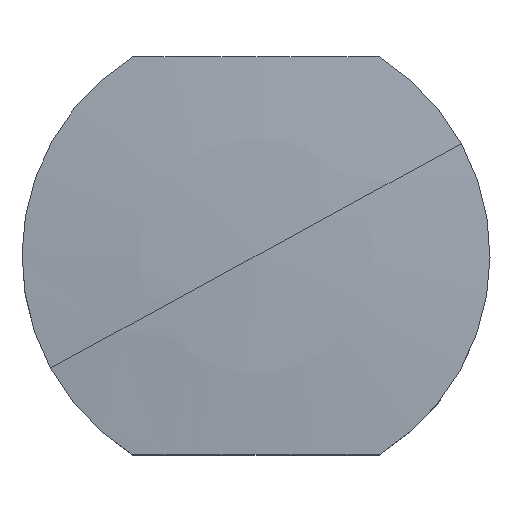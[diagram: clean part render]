
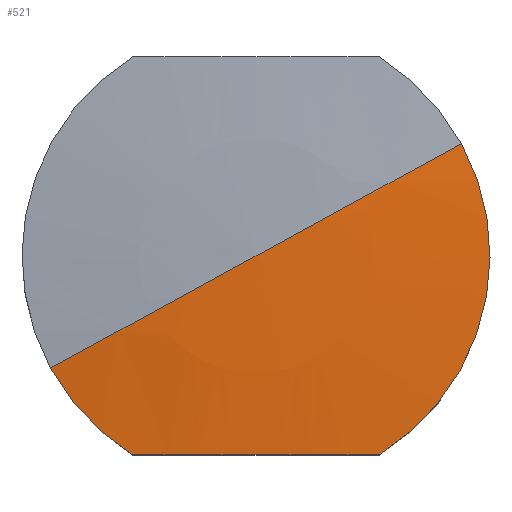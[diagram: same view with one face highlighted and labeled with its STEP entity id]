
A CAD part, top view. The second image highlights one B-rep face of the part: STEP entity #521.
In plain terms, the highlighted spherical face has radius 100 mm.
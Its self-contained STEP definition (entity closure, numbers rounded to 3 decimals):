
#345=CARTESIAN_POINT('Vertex',(-8.776,-4.794,14.999)) ;
#360=CARTESIAN_POINT('Axis2P3D Location',(0.,0.,-84.5)) ;
#365=CARTESIAN_POINT('Axis2P3D Location',(0.,0.,-84.5)) ;
#369=CARTESIAN_POINT('Vertex',(0.,0.,15.5)) ;
#372=CARTESIAN_POINT('Axis2P3D Location',(0.,0.,-84.5)) ;
#376=CARTESIAN_POINT('Vertex',(8.776,4.794,14.999)) ;
#404=CARTESIAN_POINT('Axis2P3D Location',(0.,0.,14.999)) ;
#408=CARTESIAN_POINT('Vertex',(-5.268,-8.5,14.999)) ;
#432=CARTESIAN_POINT('Vertex',(5.268,-8.5,14.999)) ;
#436=CARTESIAN_POINT('Control Point',(-5.268,-8.5,14.999)) ;
#437=CARTESIAN_POINT('Control Point',(-4.769,-8.5,15.025)) ;
#438=CARTESIAN_POINT('Control Point',(-4.303,-8.5,15.047)) ;
#439=CARTESIAN_POINT('Control Point',(-3.861,-8.5,15.065)) ;
#440=CARTESIAN_POINT('Control Point',(-2.903,-8.5,15.099)) ;
#441=CARTESIAN_POINT('Control Point',(-2.023,-8.5,15.119)) ;
#442=CARTESIAN_POINT('Control Point',(-1.548,-8.5,15.128)) ;
#443=CARTESIAN_POINT('Control Point',(-0.43,-8.5,15.141)) ;
#444=CARTESIAN_POINT('Control Point',(0.661,-8.5,15.139)) ;
#445=CARTESIAN_POINT('Control Point',(1.304,-8.5,15.133)) ;
#446=CARTESIAN_POINT('Control Point',(2.409,-8.5,15.113)) ;
#447=CARTESIAN_POINT('Control Point',(3.627,-8.5,15.074)) ;
#448=CARTESIAN_POINT('Control Point',(4.138,-8.5,15.054)) ;
#449=CARTESIAN_POINT('Control Point',(4.681,-8.5,15.03)) ;
#450=CARTESIAN_POINT('Control Point',(5.268,-8.5,14.999)) ;
#459=CARTESIAN_POINT('Axis2P3D Location',(0.,0.,14.999)) ;
#361=DIRECTION('Axis2P3D Direction',(0.,0.,1.)) ;
#362=DIRECTION('Axis2P3D XDirection',(0.878,0.479,0.)) ;
#366=DIRECTION('Axis2P3D Direction',(-0.479,0.878,0.)) ;
#373=DIRECTION('Axis2P3D Direction',(0.479,-0.878,0.)) ;
#405=DIRECTION('Axis2P3D Direction',(0.,0.,1.)) ;
#460=DIRECTION('Axis2P3D Direction',(0.,0.,1.)) ;
#363=AXIS2_PLACEMENT_3D('Sphere Axis2P3D',#360,#361,#362) ;
#367=AXIS2_PLACEMENT_3D('Circle Axis2P3D',#365,#366,$) ;
#374=AXIS2_PLACEMENT_3D('Circle Axis2P3D',#372,#373,$) ;
#406=AXIS2_PLACEMENT_3D('Circle Axis2P3D',#404,#405,$) ;
#461=AXIS2_PLACEMENT_3D('Circle Axis2P3D',#459,#460,$) ;
#515=ORIENTED_EDGE('',*,*,#463,.T.) ;
#516=ORIENTED_EDGE('',*,*,#378,.F.) ;
#517=ORIENTED_EDGE('',*,*,#371,.T.) ;
#518=ORIENTED_EDGE('',*,*,#410,.T.) ;
#519=ORIENTED_EDGE('',*,*,#451,.T.) ;
#521=ADVANCED_FACE('',(#520),#364,.T.) ;
#435=B_SPLINE_CURVE_WITH_KNOTS('',5,(#436,#437,#438,#439,#440,#441,#442,#443,#444,#445,#446,#447,#448,#449,#450),.UNSPECIFIED.,.F.,.U.,(6,3,3,3,6),(0.,21.376,48.438,86.368,111.545),.UNSPECIFIED.) ;
#368=CIRCLE('generated circle',#367,100.) ;
#375=CIRCLE('generated circle',#374,100.) ;
#407=CIRCLE('generated circle',#406,10.) ;
#462=CIRCLE('generated circle',#461,10.) ;
#371=EDGE_CURVE('',#370,#346,#368,.F.) ;
#378=EDGE_CURVE('',#370,#377,#375,.F.) ;
#410=EDGE_CURVE('',#346,#409,#407,.T.) ;
#451=EDGE_CURVE('',#409,#433,#435,.T.) ;
#463=EDGE_CURVE('',#433,#377,#462,.T.) ;
#514=EDGE_LOOP('',(#515,#516,#517,#518,#519)) ;
#520=FACE_OUTER_BOUND('',#514,.T.) ;
#364=SPHERICAL_SURFACE('',#363,100.) ;
#346=VERTEX_POINT('',#345) ;
#370=VERTEX_POINT('',#369) ;
#377=VERTEX_POINT('',#376) ;
#409=VERTEX_POINT('',#408) ;
#433=VERTEX_POINT('',#432) ;
